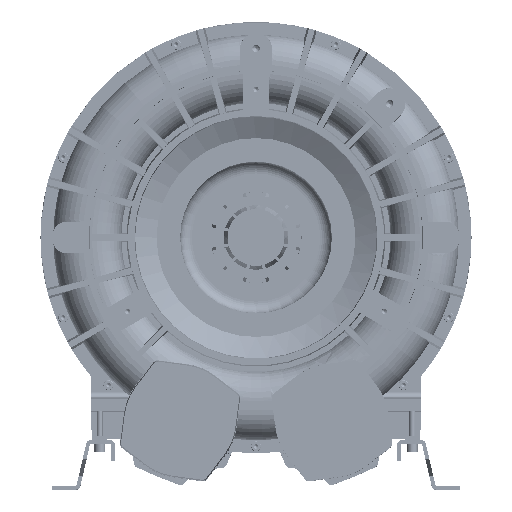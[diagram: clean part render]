
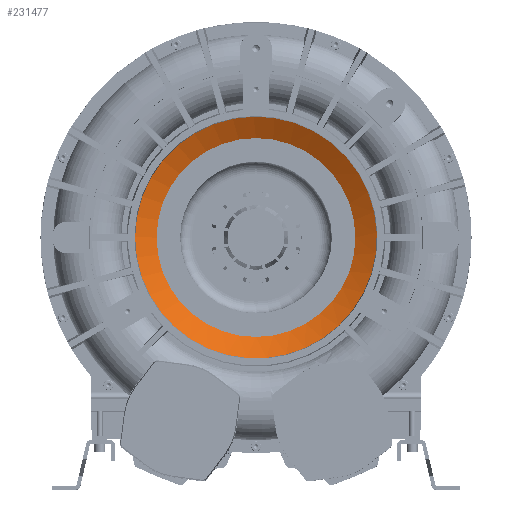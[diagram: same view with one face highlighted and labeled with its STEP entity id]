
A CAD part, top view. The second image highlights one B-rep face of the part: STEP entity #231477.
In plain terms, the highlighted conical face has half-angle 62 degrees and reference radius 131.023 mm.
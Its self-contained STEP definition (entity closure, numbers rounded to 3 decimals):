
#5594 = EDGE_CURVE ( 'NONE', #97842, #97842, #269312, .T. ) ;
#13367 = ORIENTED_EDGE ( 'NONE', *, *, #143141, .F. ) ;
#22501 = DIRECTION ( 'NONE',  ( 0., 0., 1. ) ) ;
#25117 = EDGE_LOOP ( 'NONE', ( #130482 ) ) ;
#30855 = DIRECTION ( 'NONE',  ( 1., 0., 0. ) ) ;
#34546 = DIRECTION ( 'NONE',  ( -1., 0., 0. ) ) ;
#43810 = CARTESIAN_POINT ( 'NONE',  ( 0., 0., 290.5 ) ) ;
#74112 = AXIS2_PLACEMENT_3D ( 'NONE', #198503, #142617, #34546 ) ;
#93863 = DIRECTION ( 'NONE',  ( -1., 0., 0. ) ) ;
#97842 = VERTEX_POINT ( 'NONE', #235228 ) ;
#103478 = CARTESIAN_POINT ( 'NONE',  ( -131.023, 0., 290.5 ) ) ;
#122024 = VERTEX_POINT ( 'NONE', #103478 ) ;
#130482 = ORIENTED_EDGE ( 'NONE', *, *, #5594, .F. ) ;
#142617 = DIRECTION ( 'NONE',  ( 0., 0., -1. ) ) ;
#143141 = EDGE_CURVE ( 'NONE', #122024, #122024, #262299, .T. ) ;
#153224 = FACE_BOUND ( 'NONE', #235803, .T. ) ;
#163477 = DIRECTION ( 'NONE',  ( 0., 0., 1. ) ) ;
#164577 = AXIS2_PLACEMENT_3D ( 'NONE', #43810, #22501, #30855 ) ;
#173696 = CONICAL_SURFACE ( 'NONE', #164577, 131.023, 1.082 ) ;
#184795 = CARTESIAN_POINT ( 'NONE',  ( 0., 0., 290.5 ) ) ;
#195876 = FACE_OUTER_BOUND ( 'NONE', #25117, .T. ) ;
#198503 = CARTESIAN_POINT ( 'NONE',  ( 0., 0., 305.491 ) ) ;
#225995 = AXIS2_PLACEMENT_3D ( 'NONE', #184795, #163477, #93863 ) ;
#231477 = ADVANCED_FACE ( 'NONE', ( #195876, #153224 ), #173696, .F. ) ;
#235228 = CARTESIAN_POINT ( 'NONE',  ( -159.217, 0., 305.491 ) ) ;
#235803 = EDGE_LOOP ( 'NONE', ( #13367 ) ) ;
#262299 = CIRCLE ( 'NONE', #225995, 131.023 ) ;
#269312 = CIRCLE ( 'NONE', #74112, 159.217 ) ;
